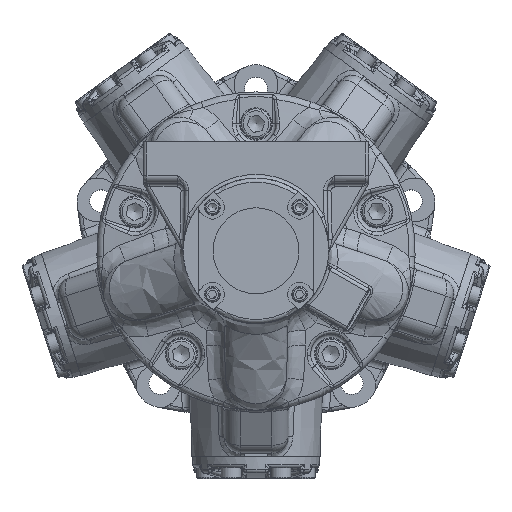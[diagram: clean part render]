
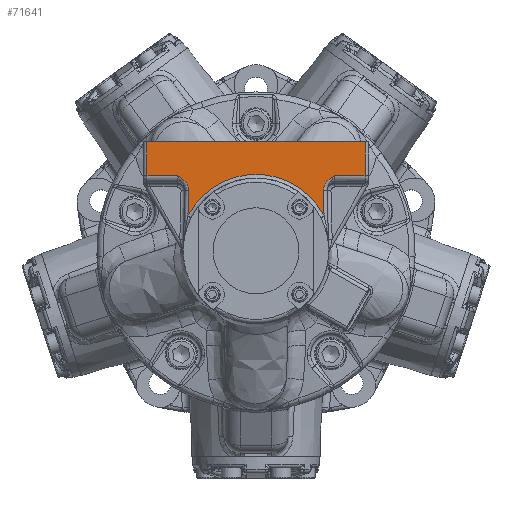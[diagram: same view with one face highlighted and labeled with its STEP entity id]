
A CAD part, top view. The second image highlights one B-rep face of the part: STEP entity #71641.
In plain terms, the highlighted planar face has unit normal (0, 0, 1).
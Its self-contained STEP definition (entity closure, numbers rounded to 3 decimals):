
#5407=B_SPLINE_CURVE_WITH_KNOTS('',3,(#177637,#177638,#177639,#177640,#177641,
#177642,#177643,#177644,#177645,#177646,#177647,#177648),.UNSPECIFIED.,
 .F.,.F.,(4,2,1,1,1,1,1,1,4),(-0.001,0.,0.309,0.463,
0.617,0.771,0.926,1.234,1.543),
 .UNSPECIFIED.);
#5410=B_SPLINE_CURVE_WITH_KNOTS('',3,(#177779,#177780,#177781,#177782,#177783,
#177784,#177785,#177786,#177787,#177788,#177789,#177790),.UNSPECIFIED.,
 .F.,.F.,(4,1,1,1,1,1,1,2,4),(0.,0.309,0.617,0.926,
1.08,1.234,1.388,1.543,1.544),
 .UNSPECIFIED.);
#9832=LINE('',#177367,#12829);
#9837=LINE('',#177665,#12834);
#9875=LINE('',#178867,#12872);
#9880=LINE('',#178907,#12877);
#9914=LINE('',#179720,#12911);
#9915=LINE('',#179722,#12912);
#9916=LINE('',#179724,#12913);
#12829=VECTOR('',#88779,10.);
#12834=VECTOR('',#88838,10.);
#12872=VECTOR('',#88996,10.);
#12877=VECTOR('',#89017,10.);
#12911=VECTOR('',#89221,10.);
#12912=VECTOR('',#89222,10.);
#12913=VECTOR('',#89225,10.);
#14262=PLANE('',#76813);
#17966=FACE_OUTER_BOUND('',#22429,.T.);
#22429=EDGE_LOOP('',(#59517,#59518,#59519,#59520,#59521,#59522,#59523,#59524,
#59525,#59526));
#25430=CIRCLE('',#76814,61.);
#31366=VERTEX_POINT('',#177361);
#31368=VERTEX_POINT('',#177365);
#31388=VERTEX_POINT('',#177557);
#31391=VERTEX_POINT('',#177635);
#31393=VERTEX_POINT('',#177651);
#31396=VERTEX_POINT('',#177778);
#31453=VERTEX_POINT('',#178863);
#31462=VERTEX_POINT('',#178904);
#31518=VERTEX_POINT('',#179719);
#31519=VERTEX_POINT('',#179721);
#40769=EDGE_CURVE('',#31368,#31366,#9832,.T.);
#40800=EDGE_CURVE('',#31388,#31391,#5407,.T.);
#40803=EDGE_CURVE('',#31391,#31393,#9837,.T.);
#40807=EDGE_CURVE('',#31396,#31368,#5410,.T.);
#40913=EDGE_CURVE('',#31366,#31453,#9875,.T.);
#40925=EDGE_CURVE('',#31462,#31388,#9880,.T.);
#41033=EDGE_CURVE('',#31518,#31453,#9914,.T.);
#41034=EDGE_CURVE('',#31519,#31396,#9915,.T.);
#41035=EDGE_CURVE('',#31393,#31519,#25430,.T.);
#41036=EDGE_CURVE('',#31518,#31462,#9916,.T.);
#59517=ORIENTED_EDGE('',*,*,#41033,.T.);
#59518=ORIENTED_EDGE('',*,*,#40913,.F.);
#59519=ORIENTED_EDGE('',*,*,#40769,.F.);
#59520=ORIENTED_EDGE('',*,*,#40807,.F.);
#59521=ORIENTED_EDGE('',*,*,#41034,.F.);
#59522=ORIENTED_EDGE('',*,*,#41035,.F.);
#59523=ORIENTED_EDGE('',*,*,#40803,.F.);
#59524=ORIENTED_EDGE('',*,*,#40800,.F.);
#59525=ORIENTED_EDGE('',*,*,#40925,.F.);
#59526=ORIENTED_EDGE('',*,*,#41036,.F.);
#71641=ADVANCED_FACE('',(#17966),#14262,.T.);
#76813=AXIS2_PLACEMENT_3D('',#179718,#89219,#89220);
#76814=AXIS2_PLACEMENT_3D('',#179723,#89223,#89224);
#88779=DIRECTION('',(-1.,0.,0.));
#88838=DIRECTION('',(0.025,-1.,0.));
#88996=DIRECTION('',(0.,1.,0.));
#89017=DIRECTION('',(-1.,0.,0.));
#89219=DIRECTION('center_axis',(0.,0.,
1.));
#89220=DIRECTION('ref_axis',(-1.,0.,0.));
#89221=DIRECTION('',(-1.,0.,0.));
#89222=DIRECTION('',(0.025,1.,0.));
#89223=DIRECTION('center_axis',(0.,0.,
1.));
#89224=DIRECTION('ref_axis',(0.,1.,0.));
#89225=DIRECTION('',(0.,-1.,0.));
#177361=CARTESIAN_POINT('',(-87.,60.,279.658));
#177365=CARTESIAN_POINT('',(-62.519,60.,279.658));
#177367=CARTESIAN_POINT('',(-45.,60.,279.658));
#177557=CARTESIAN_POINT('',(62.519,60.,279.658));
#177635=CARTESIAN_POINT('',(53.812,48.156,279.658));
#177637=CARTESIAN_POINT('Ctrl Pts',(62.519,60.,279.658));
#177638=CARTESIAN_POINT('Ctrl Pts',(62.515,59.998,279.658));
#177639=CARTESIAN_POINT('Ctrl Pts',(62.511,59.995,279.658));
#177640=CARTESIAN_POINT('Ctrl Pts',(61.63,59.456,279.658));
#177641=CARTESIAN_POINT('Ctrl Pts',(60.314,58.649,279.658));
#177642=CARTESIAN_POINT('Ctrl Pts',(58.654,57.43,279.658));
#177643=CARTESIAN_POINT('Ctrl Pts',(57.478,56.411,279.658));
#177644=CARTESIAN_POINT('Ctrl Pts',(56.42,55.29,279.658));
#177645=CARTESIAN_POINT('Ctrl Pts',(55.184,53.624,279.658));
#177646=CARTESIAN_POINT('Ctrl Pts',(54.074,51.271,279.658));
#177647=CARTESIAN_POINT('Ctrl Pts',(53.787,49.184,279.658));
#177648=CARTESIAN_POINT('Ctrl Pts',(53.812,48.156,279.658));
#177651=CARTESIAN_POINT('',(54.323,27.749,279.658));
#177665=CARTESIAN_POINT('',(53.83,47.472,279.658));
#177778=CARTESIAN_POINT('',(-53.812,48.156,279.658));
#177779=CARTESIAN_POINT('Ctrl Pts',(-53.812,48.156,279.658));
#177780=CARTESIAN_POINT('Ctrl Pts',(-53.787,49.184,
279.658));
#177781=CARTESIAN_POINT('Ctrl Pts',(-54.071,51.266,279.658));
#177782=CARTESIAN_POINT('Ctrl Pts',(-55.409,54.101,
279.658));
#177783=CARTESIAN_POINT('Ctrl Pts',(-57.09,56.078,
279.658));
#177784=CARTESIAN_POINT('Ctrl Pts',(-58.654,57.43,
279.658));
#177785=CARTESIAN_POINT('Ctrl Pts',(-59.9,58.345,279.658));
#177786=CARTESIAN_POINT('Ctrl Pts',(-61.192,59.188,
279.658));
#177787=CARTESIAN_POINT('Ctrl Pts',(-62.069,59.725,
279.658));
#177788=CARTESIAN_POINT('Ctrl Pts',(-62.511,59.995,
279.658));
#177789=CARTESIAN_POINT('Ctrl Pts',(-62.515,59.998,
279.658));
#177790=CARTESIAN_POINT('Ctrl Pts',(-62.519,60.,279.658));
#178863=CARTESIAN_POINT('',(-87.,87.1,279.658));
#178867=CARTESIAN_POINT('',(-87.,90.,279.658));
#178904=CARTESIAN_POINT('',(87.,60.,279.658));
#178907=CARTESIAN_POINT('',(-45.,60.,279.658));
#179718=CARTESIAN_POINT('Origin',(-90.,90.,279.658));
#179719=CARTESIAN_POINT('',(87.,87.1,279.658));
#179720=CARTESIAN_POINT('',(-40.349,87.1,279.658));
#179721=CARTESIAN_POINT('',(-54.323,27.749,279.658));
#179722=CARTESIAN_POINT('',(-53.886,45.222,279.658));
#179723=CARTESIAN_POINT('Origin',(0.,0.,
279.658));
#179724=CARTESIAN_POINT('',(87.,90.,279.658));
